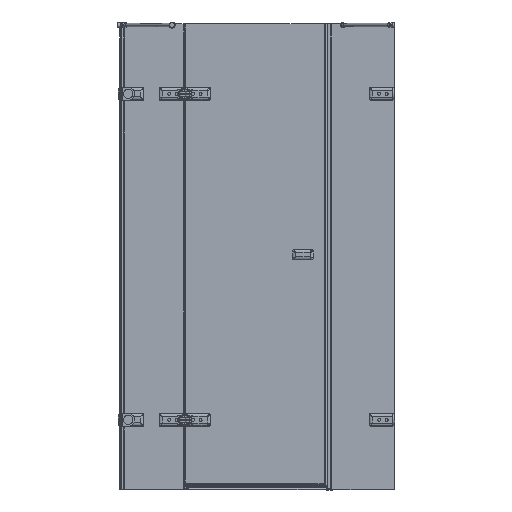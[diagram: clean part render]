
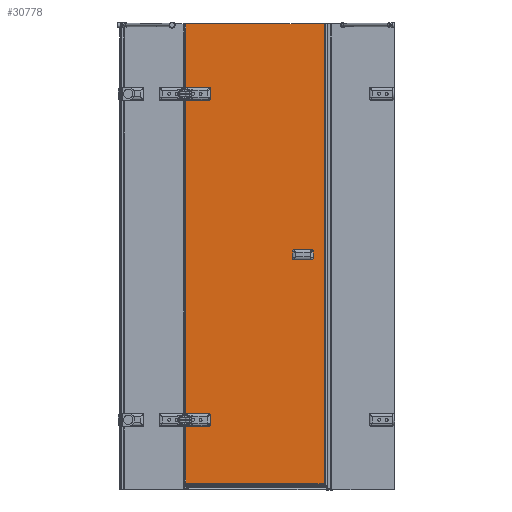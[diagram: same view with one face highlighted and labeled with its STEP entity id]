
A CAD part, left-side view. The second image highlights one B-rep face of the part: STEP entity #30778.
In plain terms, the highlighted planar face has unit normal (-1, 0, 0).
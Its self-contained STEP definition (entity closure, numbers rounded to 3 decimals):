
#1124=PLANE($,#33352);
#1522=FACE_BOUND($,#10467,.T.);
#1523=FACE_BOUND($,#10468,.T.);
#1524=FACE_BOUND($,#10469,.T.);
#2790=LINE($,#63271,#5334);
#3245=LINE($,#65400,#5789);
#3765=LINE($,#70088,#6309);
#3963=LINE($,#70827,#6507);
#3964=LINE($,#70831,#6508);
#3965=LINE($,#70834,#6509);
#3966=LINE($,#70836,#6510);
#3967=LINE($,#70840,#6511);
#3968=LINE($,#70844,#6512);
#3969=LINE($,#70846,#6513);
#3970=LINE($,#70848,#6514);
#3971=LINE($,#70849,#6515);
#5334=VECTOR($,#37060,1362.);
#5789=VECTOR($,#38385,281.);
#6309=VECTOR($,#39957,598.747);
#6507=VECTOR($,#40569,30.747);
#6508=VECTOR($,#40572,18.);
#6509=VECTOR($,#40575,30.747);
#6510=VECTOR($,#40576,30.747);
#6511=VECTOR($,#40579,18.);
#6512=VECTOR($,#40582,30.747);
#6513=VECTOR($,#40583,256.4);
#6514=VECTOR($,#40584,598.747);
#6515=VECTOR($,#40585,1975.4);
#10467=EDGE_LOOP($,(#26379));
#10468=EDGE_LOOP($,(#26380));
#10469=EDGE_LOOP($,(#26381,#26382,#26383,#26384,#26385,#26386,#26387,#26388,
#26389,#26390,#26391,#26392,#26393,#26394,#26395,#26396));
#11600=CIRCLE($,#31992,6.5);
#11768=CIRCLE($,#32427,6.5);
#12123=CIRCLE($,#33353,10.);
#12124=CIRCLE($,#33354,10.);
#12125=CIRCLE($,#33355,10.);
#12126=CIRCLE($,#33356,10.);
#13341=VERTEX_POINT($,#62332);
#13523=VERTEX_POINT($,#63268);
#13524=VERTEX_POINT($,#63270);
#13787=VERTEX_POINT($,#64463);
#13968=VERTEX_POINT($,#65397);
#13969=VERTEX_POINT($,#65399);
#14537=VERTEX_POINT($,#70087);
#14725=VERTEX_POINT($,#70826);
#14726=VERTEX_POINT($,#70828);
#14727=VERTEX_POINT($,#70830);
#14728=VERTEX_POINT($,#70832);
#14729=VERTEX_POINT($,#70835);
#14730=VERTEX_POINT($,#70837);
#14731=VERTEX_POINT($,#70839);
#14732=VERTEX_POINT($,#70841);
#14733=VERTEX_POINT($,#70843);
#14734=VERTEX_POINT($,#70845);
#14735=VERTEX_POINT($,#70847);
#16585=EDGE_CURVE($,#13341,#13341,#11600,.T.);
#16875=EDGE_CURVE($,#13523,#13524,#2790,.T.);
#17282=EDGE_CURVE($,#13787,#13787,#11768,.T.);
#17571=EDGE_CURVE($,#13968,#13969,#3245,.T.);
#18415=EDGE_CURVE($,#14537,#13969,#3765,.T.);
#18719=EDGE_CURVE($,#14725,#13968,#3963,.T.);
#18720=EDGE_CURVE($,#14725,#14726,#12123,.T.);
#18721=EDGE_CURVE($,#14727,#14726,#3964,.T.);
#18722=EDGE_CURVE($,#14727,#14728,#12124,.T.);
#18723=EDGE_CURVE($,#13524,#14728,#3965,.T.);
#18724=EDGE_CURVE($,#14729,#13523,#3966,.T.);
#18725=EDGE_CURVE($,#14729,#14730,#12125,.T.);
#18726=EDGE_CURVE($,#14731,#14730,#3967,.T.);
#18727=EDGE_CURVE($,#14731,#14732,#12126,.T.);
#18728=EDGE_CURVE($,#14733,#14732,#3968,.T.);
#18729=EDGE_CURVE($,#14734,#14733,#3969,.T.);
#18730=EDGE_CURVE($,#14734,#14735,#3970,.T.);
#18731=EDGE_CURVE($,#14735,#14537,#3971,.T.);
#26379=ORIENTED_EDGE($,*,*,#16585,.F.);
#26380=ORIENTED_EDGE($,*,*,#17282,.F.);
#26381=ORIENTED_EDGE($,*,*,#17571,.F.);
#26382=ORIENTED_EDGE($,*,*,#18719,.F.);
#26383=ORIENTED_EDGE($,*,*,#18720,.T.);
#26384=ORIENTED_EDGE($,*,*,#18721,.F.);
#26385=ORIENTED_EDGE($,*,*,#18722,.T.);
#26386=ORIENTED_EDGE($,*,*,#18723,.F.);
#26387=ORIENTED_EDGE($,*,*,#16875,.F.);
#26388=ORIENTED_EDGE($,*,*,#18724,.F.);
#26389=ORIENTED_EDGE($,*,*,#18725,.T.);
#26390=ORIENTED_EDGE($,*,*,#18726,.F.);
#26391=ORIENTED_EDGE($,*,*,#18727,.T.);
#26392=ORIENTED_EDGE($,*,*,#18728,.F.);
#26393=ORIENTED_EDGE($,*,*,#18729,.F.);
#26394=ORIENTED_EDGE($,*,*,#18730,.T.);
#26395=ORIENTED_EDGE($,*,*,#18731,.T.);
#26396=ORIENTED_EDGE($,*,*,#18415,.T.);
#30778=ADVANCED_FACE($,(#1522,#1523,#1524),#1124,.F.);
#31992=AXIS2_PLACEMENT_3D($,#62333,#36492,#36493);
#32427=AXIS2_PLACEMENT_3D($,#64464,#37818,#37819);
#33352=AXIS2_PLACEMENT_3D($,#70825,#40567,#40568);
#33353=AXIS2_PLACEMENT_3D($,#70829,#40570,#40571);
#33354=AXIS2_PLACEMENT_3D($,#70833,#40573,#40574);
#33355=AXIS2_PLACEMENT_3D($,#70838,#40577,#40578);
#33356=AXIS2_PLACEMENT_3D($,#70842,#40580,#40581);
#36492=DIRECTION('center_axis',(-1.,0.,0.));
#36493=DIRECTION('ref_axis',(0.,1.,0.));
#37060=DIRECTION($,(0.,0.,1.));
#37818=DIRECTION('center_axis',(-1.,0.,0.));
#37819=DIRECTION('ref_axis',(0.,1.,0.));
#38385=DIRECTION($,(0.,0.,1.));
#39957=DIRECTION($,(0.,1.,0.));
#40567=DIRECTION('center_axis',(1.,0.,0.));
#40568=DIRECTION('ref_axis',(0.,1.,0.));
#40569=DIRECTION($,(0.,1.,0.));
#40570=DIRECTION('center_axis',(1.,0.,0.));
#40571=DIRECTION('ref_axis',(0.,-0.707,
0.707));
#40572=DIRECTION($,(0.,0.,1.));
#40573=DIRECTION('center_axis',(1.,0.,0.));
#40574=DIRECTION('ref_axis',(0.,-0.707,-0.707));
#40575=DIRECTION($,(0.,-1.,0.));
#40576=DIRECTION($,(0.,1.,0.));
#40577=DIRECTION('center_axis',(1.,0.,0.));
#40578=DIRECTION('ref_axis',(0.,-0.707,
0.707));
#40579=DIRECTION($,(0.,0.,1.));
#40580=DIRECTION('center_axis',(1.,0.,0.));
#40581=DIRECTION('ref_axis',(0.,-0.707,-0.707));
#40582=DIRECTION($,(0.,-1.,0.));
#40583=DIRECTION($,(0.,0.,1.));
#40584=DIRECTION($,(0.,-1.,0.));
#40585=DIRECTION($,(0.,0.,1.));
#62332=CARTESIAN_POINT('',(1325.733,-601.544,-214.056));
#62333=CARTESIAN_POINT('Origin',(1325.733,-595.044,-214.056));
#63268=CARTESIAN_POINT('',(1325.733,-531.297,-195.056));
#63270=CARTESIAN_POINT('',(1325.733,-531.297,1166.944));
#63271=CARTESIAN_POINT($,(1325.733,-531.297,-204.056));
#64463=CARTESIAN_POINT('',(1325.733,-601.544,1185.944));
#64464=CARTESIAN_POINT('Origin',(1325.733,-595.044,1185.944));
#65397=CARTESIAN_POINT('',(1325.733,-531.297,1204.944));
#65399=CARTESIAN_POINT('',(1325.733,-531.297,1485.944));
#65400=CARTESIAN_POINT($,(1325.733,-531.297,1195.944));
#70087=CARTESIAN_POINT('',(1325.733,-1130.044,1485.944));
#70088=CARTESIAN_POINT($,(1325.733,-1130.044,1485.944));
#70825=CARTESIAN_POINT('Origin',(1325.733,-1130.044,-494.056));
#70826=CARTESIAN_POINT('',(1325.733,-562.044,1204.944));
#70827=CARTESIAN_POINT($,(1325.733,-830.044,1204.944));
#70828=CARTESIAN_POINT('',(1325.733,-572.044,1194.944));
#70829=CARTESIAN_POINT('Origin',(1325.733,-562.044,1194.944));
#70830=CARTESIAN_POINT('',(1325.733,-572.044,1176.944));
#70831=CARTESIAN_POINT($,(1325.733,-572.044,355.444));
#70832=CARTESIAN_POINT('',(1325.733,-562.044,1166.944));
#70833=CARTESIAN_POINT('Origin',(1325.733,-562.044,1176.944));
#70834=CARTESIAN_POINT($,(1325.733,-851.044,1166.944));
#70835=CARTESIAN_POINT('',(1325.733,-562.044,-195.056));
#70836=CARTESIAN_POINT($,(1325.733,-830.044,-195.056));
#70837=CARTESIAN_POINT('',(1325.733,-572.044,-205.056));
#70838=CARTESIAN_POINT('Origin',(1325.733,-562.044,-205.056));
#70839=CARTESIAN_POINT('',(1325.733,-572.044,-223.056));
#70840=CARTESIAN_POINT($,(1325.733,-572.044,-344.556));
#70841=CARTESIAN_POINT('',(1325.733,-562.044,-233.056));
#70842=CARTESIAN_POINT('Origin',(1325.733,-562.044,-223.056));
#70843=CARTESIAN_POINT('',(1325.733,-531.297,-233.056));
#70844=CARTESIAN_POINT($,(1325.733,-851.044,-233.056));
#70845=CARTESIAN_POINT('',(1325.733,-531.297,-489.456));
#70846=CARTESIAN_POINT($,(1325.733,-531.297,-224.056));
#70847=CARTESIAN_POINT('',(1325.733,-1130.044,-489.456));
#70848=CARTESIAN_POINT($,(1325.733,-530.044,-489.456));
#70849=CARTESIAN_POINT($,(1325.733,-1130.044,-494.056));
